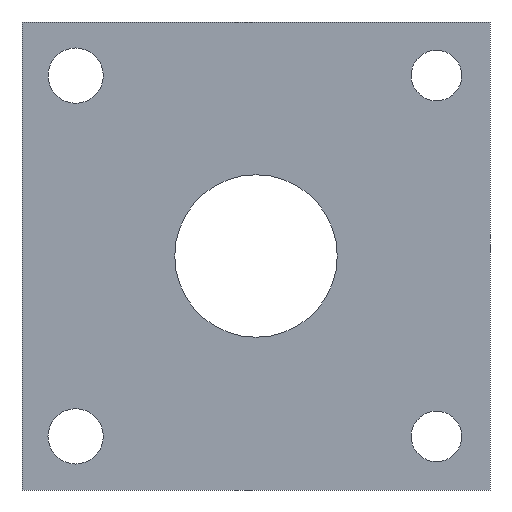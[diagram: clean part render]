
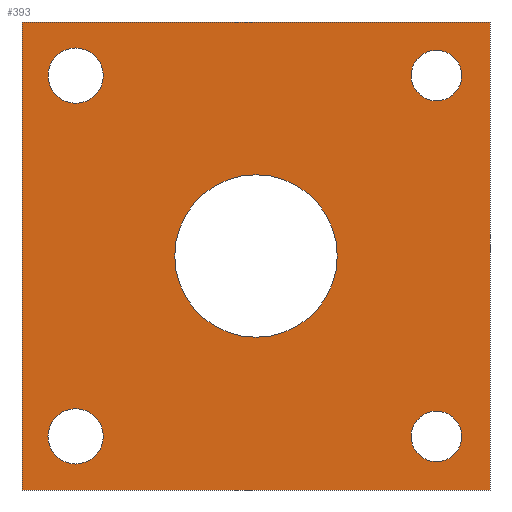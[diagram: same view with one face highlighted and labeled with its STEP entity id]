
A CAD part, front view. The second image highlights one B-rep face of the part: STEP entity #393.
In plain terms, the highlighted planar face has unit normal (0, -1, 0).
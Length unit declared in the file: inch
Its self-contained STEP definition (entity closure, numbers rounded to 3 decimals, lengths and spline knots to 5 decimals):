
#4 = ORIENTED_EDGE ( 'NONE', *, *, #100, .T. ) ;
#8 = AXIS2_PLACEMENT_3D ( 'NONE', #508, #510, #512 ) ;
#25 = ORIENTED_EDGE ( 'NONE', *, *, #845, .F. ) ;
#30 = AXIS2_PLACEMENT_3D ( 'NONE', #264, #274, #276 ) ;
#46 = EDGE_CURVE ( 'NONE', #745, #611, #487, .T. ) ;
#51 = AXIS2_PLACEMENT_3D ( 'NONE', #481, #483, #485 ) ;
#55 = AXIS2_PLACEMENT_3D ( 'NONE', #200, #203, #204 ) ;
#57 = FACE_BOUND ( 'NONE', #316, .T. ) ;
#72 = CARTESIAN_POINT ( 'NONE',  ( -1.44, 0., 1.44 ) ) ;
#94 = CARTESIAN_POINT ( 'NONE',  ( 1.11, 0., -1.11 ) ) ;
#95 = DIRECTION ( 'NONE',  ( 0., 1., 0. ) ) ;
#96 = DIRECTION ( 'NONE',  ( 0., 0., 1. ) ) ;
#100 = EDGE_CURVE ( 'NONE', #300, #493, #648, .T. ) ;
#114 = LINE ( 'NONE', #380, #465 ) ;
#133 = CARTESIAN_POINT ( 'NONE',  ( -1.11, 0., 1.11 ) ) ;
#134 = DIRECTION ( 'NONE',  ( 0., 1., 0. ) ) ;
#135 = DIRECTION ( 'NONE',  ( 0., 0., -1. ) ) ;
#195 = CARTESIAN_POINT ( 'NONE',  ( -1.11, 0., -0.94 ) ) ;
#198 = CARTESIAN_POINT ( 'NONE',  ( 1.11, 0., 0.95424 ) ) ;
#199 = FACE_BOUND ( 'NONE', #469, .T. ) ;
#200 = CARTESIAN_POINT ( 'NONE',  ( 1.11, 0., 1.11 ) ) ;
#203 = DIRECTION ( 'NONE',  ( 0., 1., 0. ) ) ;
#204 = DIRECTION ( 'NONE',  ( 0., 0., -1. ) ) ;
#209 = FACE_BOUND ( 'NONE', #538, .T. ) ;
#211 = CARTESIAN_POINT ( 'NONE',  ( -1.11, 0., 1.28 ) ) ;
#213 = FACE_BOUND ( 'NONE', #323, .T. ) ;
#223 = FACE_BOUND ( 'NONE', #524, .T. ) ;
#234 = CARTESIAN_POINT ( 'NONE',  ( -1.44, 0., -1.44 ) ) ;
#236 = ORIENTED_EDGE ( 'NONE', *, *, #607, .T. ) ;
#238 = CARTESIAN_POINT ( 'NONE',  ( 1.44, 0., -1.44 ) ) ;
#264 = CARTESIAN_POINT ( 'NONE',  ( 0., 0., 0. ) ) ;
#267 = PLANE ( 'NONE',  #30 ) ;
#268 = CIRCLE ( 'NONE', #637, 0.17 ) ;
#272 = EDGE_CURVE ( 'NONE', #496, #297, #307, .T. ) ;
#274 = DIRECTION ( 'NONE',  ( 0., -1., 0. ) ) ;
#276 = DIRECTION ( 'NONE',  ( 0., 0., -1. ) ) ;
#283 = ORIENTED_EDGE ( 'NONE', *, *, #910, .F. ) ;
#293 = VERTEX_POINT ( 'NONE', #195 ) ;
#297 = VERTEX_POINT ( 'NONE', #198 ) ;
#300 = VERTEX_POINT ( 'NONE', #211 ) ;
#307 = CIRCLE ( 'NONE', #55, 0.15576 ) ;
#316 = EDGE_LOOP ( 'NONE', ( #666, #655 ) ) ;
#323 = EDGE_LOOP ( 'NONE', ( #236, #554 ) ) ;
#326 = CARTESIAN_POINT ( 'NONE',  ( 1.11, 0., 1.26576 ) ) ;
#327 = EDGE_LOOP ( 'NONE', ( #675, #669, #283, #25 ) ) ;
#343 = CARTESIAN_POINT ( 'NONE',  ( -1.11, 0., 0.94 ) ) ;
#344 = VERTEX_POINT ( 'NONE', #238 ) ;
#355 = VERTEX_POINT ( 'NONE', #234 ) ;
#360 = CARTESIAN_POINT ( 'NONE',  ( -1.11, 0., -1.28 ) ) ;
#362 = CARTESIAN_POINT ( 'NONE',  ( 1.44, 0., 1.44 ) ) ;
#373 = DIRECTION ( 'NONE',  ( 0., 0., -1. ) ) ;
#375 = CARTESIAN_POINT ( 'NONE',  ( 0., 0., 0.5 ) ) ;
#377 = CIRCLE ( 'NONE', #8, 0.5 ) ;
#378 = DIRECTION ( 'NONE',  ( 1., 0., 0. ) ) ;
#380 = CARTESIAN_POINT ( 'NONE',  ( -1.44, 0., 1.44 ) ) ;
#392 = CARTESIAN_POINT ( 'NONE',  ( 1.44, 0., 1.44 ) ) ;
#393 = ADVANCED_FACE ( 'NONE', ( #209, #199, #213, #223, #57, #858 ), #267, .T. ) ;
#411 = CARTESIAN_POINT ( 'NONE',  ( -1.11, 0., -1.11 ) ) ;
#412 = DIRECTION ( 'NONE',  ( 0., 1., 0. ) ) ;
#414 = DIRECTION ( 'NONE',  ( 0., 0., 1. ) ) ;
#422 = CARTESIAN_POINT ( 'NONE',  ( 1.11, 0., -0.95424 ) ) ;
#431 = CARTESIAN_POINT ( 'NONE',  ( 1.11, 0., -1.11 ) ) ;
#432 = DIRECTION ( 'NONE',  ( 0., 1., 0. ) ) ;
#433 = DIRECTION ( 'NONE',  ( 0., 0., 1. ) ) ;
#439 = AXIS2_PLACEMENT_3D ( 'NONE', #94, #95, #96 ) ;
#446 = CIRCLE ( 'NONE', #51, 0.17 ) ;
#465 = VECTOR ( 'NONE', #378, 39.37008 ) ;
#469 = EDGE_LOOP ( 'NONE', ( #814, #925 ) ) ;
#481 = CARTESIAN_POINT ( 'NONE',  ( -1.11, 0., -1.11 ) ) ;
#483 = DIRECTION ( 'NONE',  ( 0., 1., 0. ) ) ;
#485 = DIRECTION ( 'NONE',  ( 0., 0., 1. ) ) ;
#487 = CIRCLE ( 'NONE', #439, 0.15576 ) ;
#490 = CARTESIAN_POINT ( 'NONE',  ( 0., 0., -0.5 ) ) ;
#493 = VERTEX_POINT ( 'NONE', #343 ) ;
#496 = VERTEX_POINT ( 'NONE', #326 ) ;
#501 = CARTESIAN_POINT ( 'NONE',  ( 1.11, 0., -1.26576 ) ) ;
#508 = CARTESIAN_POINT ( 'NONE',  ( 0., 0., 0. ) ) ;
#510 = DIRECTION ( 'NONE',  ( 0., 1., 0. ) ) ;
#511 = VERTEX_POINT ( 'NONE', #360 ) ;
#512 = DIRECTION ( 'NONE',  ( 0., 0., 1. ) ) ;
#515 = VECTOR ( 'NONE', #930, 39.37008 ) ;
#524 = EDGE_LOOP ( 'NONE', ( #612, #665 ) ) ;
#537 = CARTESIAN_POINT ( 'NONE',  ( 0., 0., 0. ) ) ;
#538 = EDGE_LOOP ( 'NONE', ( #4, #906 ) ) ;
#539 = DIRECTION ( 'NONE',  ( 0., 1., 0. ) ) ;
#541 = DIRECTION ( 'NONE',  ( 0., 0., 1. ) ) ;
#543 = AXIS2_PLACEMENT_3D ( 'NONE', #133, #134, #135 ) ;
#546 = EDGE_CURVE ( 'NONE', #589, #344, #920, .T. ) ;
#552 = CARTESIAN_POINT ( 'NONE',  ( -1.44, 0., 1.44 ) ) ;
#554 = ORIENTED_EDGE ( 'NONE', *, *, #46, .T. ) ;
#556 = CARTESIAN_POINT ( 'NONE',  ( -1.11, 0., 1.11 ) ) ;
#557 = DIRECTION ( 'NONE',  ( 0., 1., 0. ) ) ;
#558 = DIRECTION ( 'NONE',  ( 0., 0., -1. ) ) ;
#561 = VERTEX_POINT ( 'NONE', #375 ) ;
#582 = CARTESIAN_POINT ( 'NONE',  ( 1.11, 0., 1.11 ) ) ;
#584 = EDGE_CURVE ( 'NONE', #782, #589, #114, .T. ) ;
#587 = LINE ( 'NONE', #72, #515 ) ;
#589 = VERTEX_POINT ( 'NONE', #392 ) ;
#598 = EDGE_CURVE ( 'NONE', #511, #293, #268, .T. ) ;
#607 = EDGE_CURVE ( 'NONE', #611, #745, #653, .T. ) ;
#611 = VERTEX_POINT ( 'NONE', #422 ) ;
#612 = ORIENTED_EDGE ( 'NONE', *, *, #676, .T. ) ;
#637 = AXIS2_PLACEMENT_3D ( 'NONE', #411, #412, #414 ) ;
#648 = CIRCLE ( 'NONE', #543, 0.17 ) ;
#653 = CIRCLE ( 'NONE', #682, 0.15576 ) ;
#655 = ORIENTED_EDGE ( 'NONE', *, *, #722, .T. ) ;
#658 = AXIS2_PLACEMENT_3D ( 'NONE', #556, #557, #558 ) ;
#664 = AXIS2_PLACEMENT_3D ( 'NONE', #537, #539, #541 ) ;
#665 = ORIENTED_EDGE ( 'NONE', *, *, #598, .T. ) ;
#666 = ORIENTED_EDGE ( 'NONE', *, *, #757, .T. ) ;
#669 = ORIENTED_EDGE ( 'NONE', *, *, #584, .F. ) ;
#675 = ORIENTED_EDGE ( 'NONE', *, *, #546, .F. ) ;
#676 = EDGE_CURVE ( 'NONE', #293, #511, #446, .T. ) ;
#682 = AXIS2_PLACEMENT_3D ( 'NONE', #431, #432, #433 ) ;
#683 = CIRCLE ( 'NONE', #664, 0.5 ) ;
#705 = VECTOR ( 'NONE', #909, 39.37008 ) ;
#716 = LINE ( 'NONE', #908, #705 ) ;
#718 = VERTEX_POINT ( 'NONE', #490 ) ;
#722 = EDGE_CURVE ( 'NONE', #718, #561, #377, .T. ) ;
#745 = VERTEX_POINT ( 'NONE', #501 ) ;
#750 = CIRCLE ( 'NONE', #881, 0.15576 ) ;
#757 = EDGE_CURVE ( 'NONE', #561, #718, #683, .T. ) ;
#775 = EDGE_CURVE ( 'NONE', #493, #300, #926, .T. ) ;
#782 = VERTEX_POINT ( 'NONE', #552 ) ;
#798 = EDGE_CURVE ( 'NONE', #297, #496, #750, .T. ) ;
#814 = ORIENTED_EDGE ( 'NONE', *, *, #272, .T. ) ;
#845 = EDGE_CURVE ( 'NONE', #344, #355, #716, .T. ) ;
#856 = DIRECTION ( 'NONE',  ( 0., 1., 0. ) ) ;
#857 = DIRECTION ( 'NONE',  ( 0., 0., -1. ) ) ;
#858 = FACE_OUTER_BOUND ( 'NONE', #327, .T. ) ;
#881 = AXIS2_PLACEMENT_3D ( 'NONE', #582, #856, #857 ) ;
#906 = ORIENTED_EDGE ( 'NONE', *, *, #775, .T. ) ;
#908 = CARTESIAN_POINT ( 'NONE',  ( -1.44, 0., -1.44 ) ) ;
#909 = DIRECTION ( 'NONE',  ( -1., 0., 0. ) ) ;
#910 = EDGE_CURVE ( 'NONE', #355, #782, #587, .T. ) ;
#912 = VECTOR ( 'NONE', #373, 39.37008 ) ;
#920 = LINE ( 'NONE', #362, #912 ) ;
#925 = ORIENTED_EDGE ( 'NONE', *, *, #798, .T. ) ;
#926 = CIRCLE ( 'NONE', #658, 0.17 ) ;
#930 = DIRECTION ( 'NONE',  ( 0., 0., 1. ) ) ;
